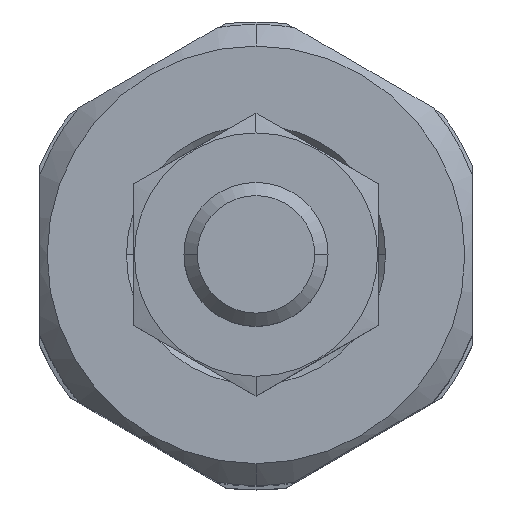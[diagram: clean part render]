
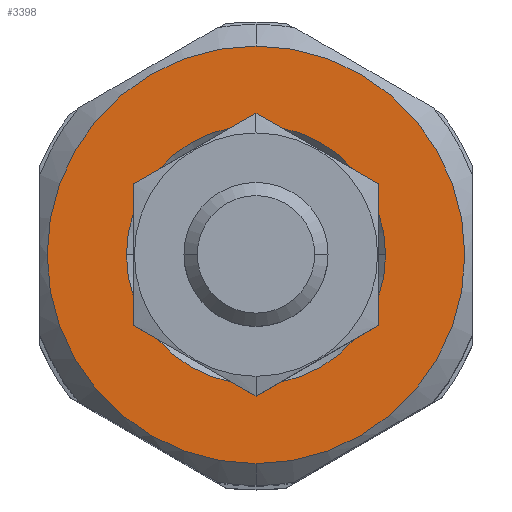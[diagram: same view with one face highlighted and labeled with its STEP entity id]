
A CAD part, top view. The second image highlights one B-rep face of the part: STEP entity #3398.
In plain terms, the highlighted planar face has unit normal (0, 0, 1).
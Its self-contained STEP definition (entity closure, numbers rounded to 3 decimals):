
#370 = EDGE_CURVE ( 'NONE', #2581, #2114, #2330, .T. ) ;
#485 = EDGE_CURVE ( 'NONE', #3824, #695, #1298, .T. ) ;
#502 = CARTESIAN_POINT ( 'NONE',  ( 9., 0., 9.5 ) ) ;
#644 = CARTESIAN_POINT ( 'NONE',  ( 0., 14.5, 9.5 ) ) ;
#670 = FACE_OUTER_BOUND ( 'NONE', #2148, .T. ) ;
#676 = AXIS2_PLACEMENT_3D ( 'NONE', #1364, #1520, #3013 ) ;
#695 = VERTEX_POINT ( 'NONE', #856 ) ;
#769 = DIRECTION ( 'NONE',  ( 1., 0., 0. ) ) ;
#856 = CARTESIAN_POINT ( 'NONE',  ( 0., -14.5, 9.5 ) ) ;
#1194 = DIRECTION ( 'NONE',  ( 0., 0., 1. ) ) ;
#1298 = CIRCLE ( 'NONE', #3809, 14.5 ) ;
#1364 = CARTESIAN_POINT ( 'NONE',  ( 0., 0., 9.5 ) ) ;
#1383 = AXIS2_PLACEMENT_3D ( 'NONE', #644, #2139, #1767 ) ;
#1520 = DIRECTION ( 'NONE',  ( 0., 0., -1. ) ) ;
#1523 = CIRCLE ( 'NONE', #2911, 9. ) ;
#1767 = DIRECTION ( 'NONE',  ( 1., 0., 0. ) ) ;
#1884 = ORIENTED_EDGE ( 'NONE', *, *, #4502, .T. ) ;
#1969 = DIRECTION ( 'NONE',  ( 0., 1., 0. ) ) ;
#2114 = VERTEX_POINT ( 'NONE', #2608 ) ;
#2139 = DIRECTION ( 'NONE',  ( 0., 0., 1. ) ) ;
#2148 = EDGE_LOOP ( 'NONE', ( #4149, #4178 ) ) ;
#2330 = CIRCLE ( 'NONE', #676, 9. ) ;
#2503 = FACE_BOUND ( 'NONE', #3461, .T. ) ;
#2567 = AXIS2_PLACEMENT_3D ( 'NONE', #4170, #4194, #1969 ) ;
#2581 = VERTEX_POINT ( 'NONE', #502 ) ;
#2608 = CARTESIAN_POINT ( 'NONE',  ( -9., 0., 9.5 ) ) ;
#2741 = DIRECTION ( 'NONE',  ( 0., 1., 0. ) ) ;
#2807 = CIRCLE ( 'NONE', #2567, 14.5 ) ;
#2887 = CARTESIAN_POINT ( 'NONE',  ( 0., 0., 9.5 ) ) ;
#2911 = AXIS2_PLACEMENT_3D ( 'NONE', #2887, #2941, #769 ) ;
#2941 = DIRECTION ( 'NONE',  ( 0., 0., -1. ) ) ;
#3013 = DIRECTION ( 'NONE',  ( 1., 0., 0. ) ) ;
#3060 = CARTESIAN_POINT ( 'NONE',  ( 0., 0., 9.5 ) ) ;
#3188 = ORIENTED_EDGE ( 'NONE', *, *, #370, .T. ) ;
#3398 = ADVANCED_FACE ( 'NONE', ( #670, #2503 ), #3989, .T. ) ;
#3461 = EDGE_LOOP ( 'NONE', ( #3188, #1884 ) ) ;
#3809 = AXIS2_PLACEMENT_3D ( 'NONE', #3060, #1194, #2741 ) ;
#3822 = EDGE_CURVE ( 'NONE', #695, #3824, #2807, .T. ) ;
#3824 = VERTEX_POINT ( 'NONE', #3845 ) ;
#3845 = CARTESIAN_POINT ( 'NONE',  ( 0., 14.5, 9.5 ) ) ;
#3989 = PLANE ( 'NONE',  #1383 ) ;
#4149 = ORIENTED_EDGE ( 'NONE', *, *, #485, .T. ) ;
#4170 = CARTESIAN_POINT ( 'NONE',  ( 0., 0., 9.5 ) ) ;
#4178 = ORIENTED_EDGE ( 'NONE', *, *, #3822, .T. ) ;
#4194 = DIRECTION ( 'NONE',  ( 0., 0., 1. ) ) ;
#4502 = EDGE_CURVE ( 'NONE', #2114, #2581, #1523, .T. ) ;
